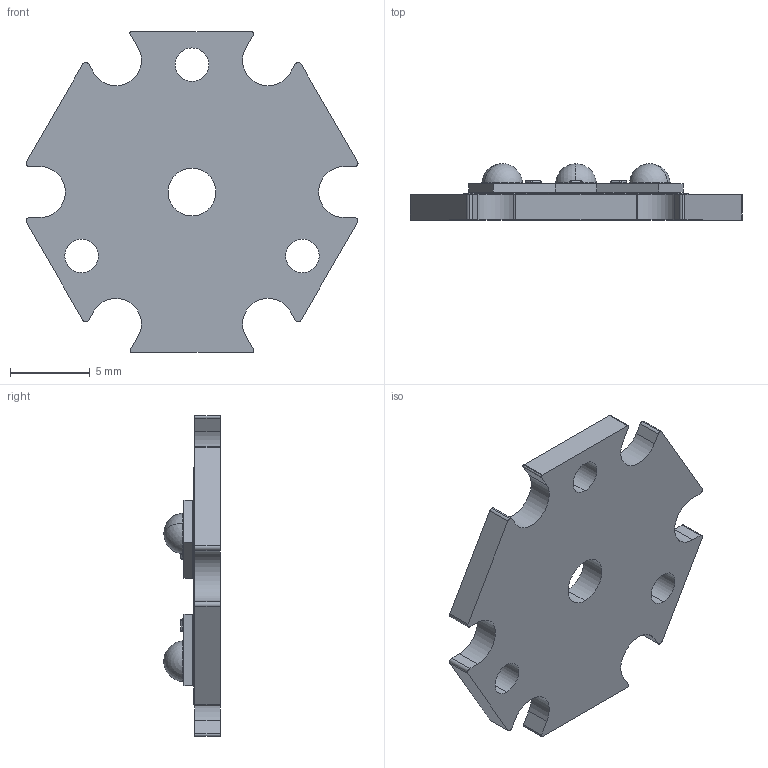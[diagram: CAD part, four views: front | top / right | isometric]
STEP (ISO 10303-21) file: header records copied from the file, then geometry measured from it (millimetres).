
FILE_DESCRIPTION (( 'STEP AP214' ), '1' );
FILE_NAME ('SP-03.STEP', '2014-07-27T18:07:36', ( 'MainServer' ), ( '' ), 'SwSTEP 2.0', 'SolidWorks 2014', '' );
FILE_SCHEMA (( 'AUTOMOTIVE_DESIGN' ));
Length unit declared in the file: inch
Products named in the file (3): Luxeon Rebel ES; SP-03 Base; SP-03
Assembly tree (4 placements, depth 2):
  SP-03
    SP-03 Base
    Luxeon Rebel ES  x3
Bounding box: 20.83 x 3.55 x 20.11 mm (x, y, z)
Volume: 480.9 mm3; surface area: 871.9 mm2
Topology: 4 solids, 4 shells, 559 faces, 1440 edges, 931 vertices
Faces by surface type: plane 310, cylinder 153, bspline 60, sphere 18, torus 18
Entity records: 22279 total; most frequent: CARTESIAN_POINT 6091, ORIENTED_EDGE 2280, DIRECTION 2006, EDGE_CURVE 1140, VECTOR 798, LINE 798, VERTEX_POINT 753, AXIS2_PLACEMENT_3D 604
